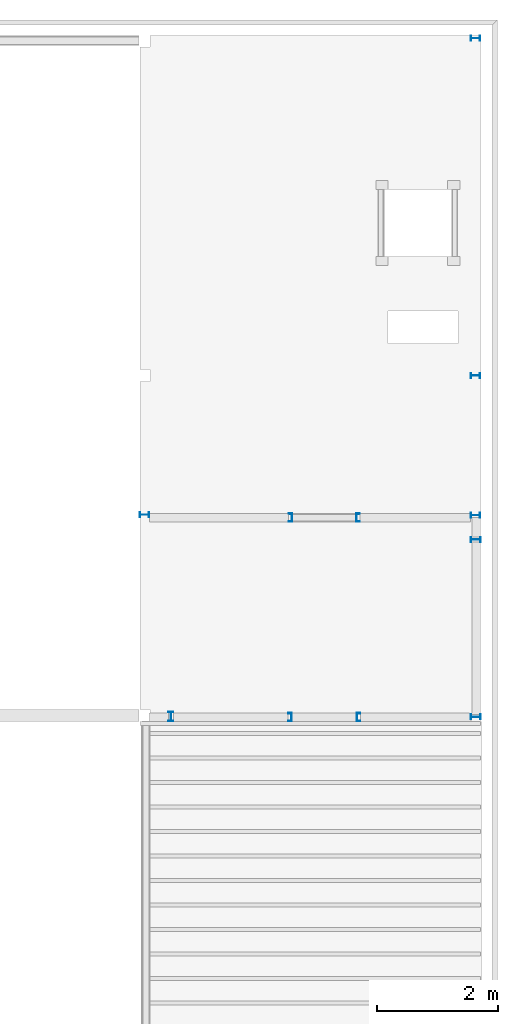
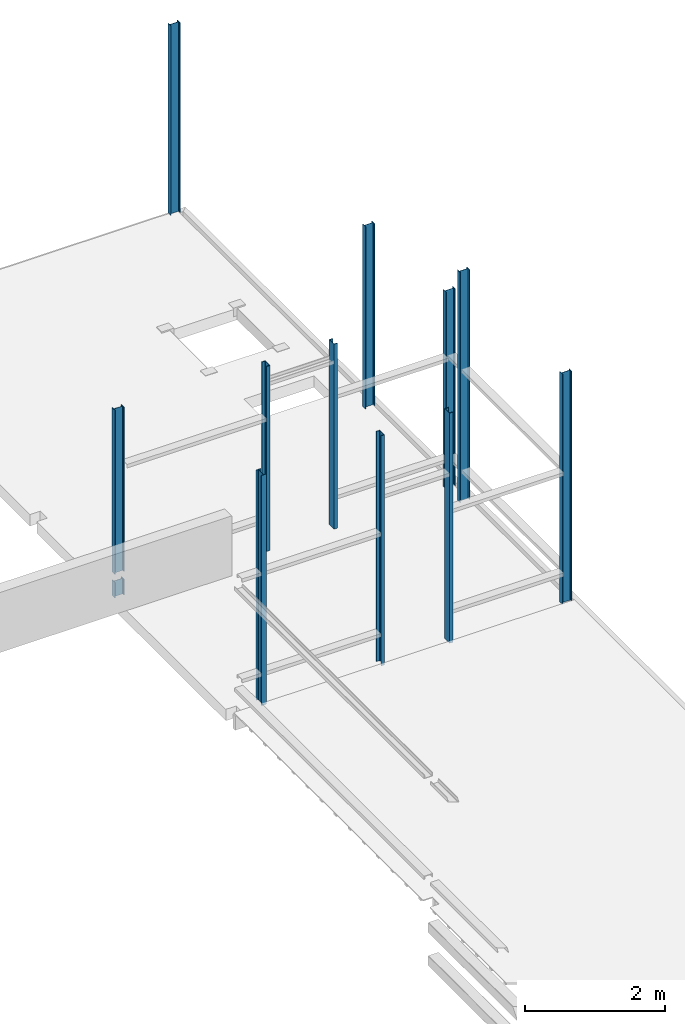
# One storey, part 1 of 8: 12 columns.
"""IFC2X3 building model written with IfcOpenShell, lengths in millimetres."""

from ifc_helpers import new_model, entity, si_unit, converted_unit, derived_unit, direction, frame, frame_2d, origin, place, context, subcontext, project, spatial, polyline, circle_curve, parameter, trimmed, segment, composite_curve, i_section, outline, extrude, source, transform, mapped, material, type_object, type_shapes, element, save


model = new_model("IFC2X3")

# Units and contexts
model_context = context("Model", 3, precision=0.01, world=origin(), true_north=direction((6.123031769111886e-17, 1.0)))
plan_context = context("Plan", 3, precision=0.01, world=origin(), true_north=direction((6.123031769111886e-17, 1.0)))
body_context = subcontext(model_context, "Body", "Model", "MODEL_VIEW")
ifc_project = project(units=[si_unit("LENGTHUNIT", "METRE", prefix="MILLI"), si_unit("AREAUNIT", "SQUARE_METRE"), si_unit("VOLUMEUNIT", "CUBIC_METRE"), converted_unit("PLANEANGLEUNIT", "DEGREE", entity("IfcPlaneAngleMeasure", 0.017453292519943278), si_unit("PLANEANGLEUNIT", "RADIAN"), dimensions=[0, 0, 0, 0, 0, 0, 0]), si_unit("MASSUNIT", "GRAM", prefix="KILO"), derived_unit("MASSDENSITYUNIT", [(si_unit("MASSUNIT", "GRAM", prefix="KILO"), 1), (si_unit("LENGTHUNIT", "METRE"), -3)]), derived_unit("IONCONCENTRATIONUNIT", [(si_unit("MASSUNIT", "GRAM", prefix="KILO"), 1), (si_unit("LENGTHUNIT", "METRE"), -3)]), derived_unit("MOMENTOFINERTIAUNIT", [(si_unit("LENGTHUNIT", "METRE"), 4)]), si_unit("TIMEUNIT", "SECOND"), si_unit("FREQUENCYUNIT", "HERTZ"), si_unit("THERMODYNAMICTEMPERATUREUNIT", "DEGREE_CELSIUS"), derived_unit("THERMALTRANSMITTANCEUNIT", [(si_unit("MASSUNIT", "GRAM", prefix="KILO"), 1), (si_unit("THERMODYNAMICTEMPERATUREUNIT", "KELVIN"), -1), (si_unit("TIMEUNIT", "SECOND"), -3)]), derived_unit("THERMALCONDUCTANCEUNIT", [(si_unit("MASSUNIT", "GRAM", prefix="KILO"), 1), (si_unit("THERMODYNAMICTEMPERATUREUNIT", "KELVIN"), -1), (si_unit("TIMEUNIT", "SECOND"), -3), (si_unit("LENGTHUNIT", "METRE"), 1)]), derived_unit("VOLUMETRICFLOWRATEUNIT", [(si_unit("LENGTHUNIT", "METRE", prefix="DECI"), 3), (si_unit("TIMEUNIT", "SECOND"), -1)]), derived_unit("MASSFLOWRATEUNIT", [(si_unit("MASSUNIT", "GRAM", prefix="KILO"), 1), (si_unit("TIMEUNIT", "SECOND"), -1)]), derived_unit("ROTATIONALFREQUENCYUNIT", [(si_unit("TIMEUNIT", "SECOND"), -1)]), si_unit("ELECTRICCURRENTUNIT", "AMPERE"), si_unit("ELECTRICVOLTAGEUNIT", "VOLT"), si_unit("POWERUNIT", "WATT"), si_unit("FORCEUNIT", "NEWTON", prefix="KILO"), si_unit("ILLUMINANCEUNIT", "LUX"), si_unit("LUMINOUSFLUXUNIT", "LUMEN"), si_unit("LUMINOUSINTENSITYUNIT", "CANDELA"), si_unit("ENERGYUNIT", "JOULE"), derived_unit("USERDEFINED", [(si_unit("MASSUNIT", "GRAM", prefix="KILO"), -1), (si_unit("LENGTHUNIT", "METRE"), -2), (si_unit("TIMEUNIT", "SECOND"), 3), (si_unit("LUMINOUSFLUXUNIT", "LUMEN"), 1)]), derived_unit("USERDEFINED", [(si_unit("MASSUNIT", "GRAM", prefix="KILO"), 1), (si_unit("TIMEUNIT", "SECOND"), -3), (si_unit("LENGTHUNIT", "METRE"), 3), (si_unit("ELECTRICCURRENTUNIT", "AMPERE"), -2)]), derived_unit("SOUNDPOWERUNIT", [(si_unit("MASSUNIT", "GRAM", prefix="KILO"), 1), (si_unit("TIMEUNIT", "SECOND"), -3), (si_unit("LENGTHUNIT", "METRE"), 2)]), derived_unit("SOUNDPRESSUREUNIT", [(si_unit("MASSUNIT", "GRAM", prefix="KILO"), 1), (si_unit("LENGTHUNIT", "METRE"), -1), (si_unit("TIMEUNIT", "SECOND"), -2)]), derived_unit("LINEARVELOCITYUNIT", [(si_unit("LENGTHUNIT", "METRE"), 1), (si_unit("TIMEUNIT", "SECOND"), -1)]), si_unit("PRESSUREUNIT", "PASCAL"), derived_unit("USERDEFINED", [(si_unit("MASSUNIT", "GRAM", prefix="KILO"), 1), (si_unit("LENGTHUNIT", "METRE"), -2), (si_unit("TIMEUNIT", "SECOND"), -2)]), derived_unit("LINEARFORCEUNIT", [(si_unit("MASSUNIT", "GRAM", prefix="KILO"), 1), (si_unit("TIMEUNIT", "SECOND"), -2)]), derived_unit("PLANARFORCEUNIT", [(si_unit("MASSUNIT", "GRAM", prefix="KILO"), 1), (si_unit("LENGTHUNIT", "METRE"), -1), (si_unit("TIMEUNIT", "SECOND"), -2)]), derived_unit("SPECIFICHEATCAPACITYUNIT", [(si_unit("THERMODYNAMICTEMPERATUREUNIT", "KELVIN"), -1), (si_unit("LENGTHUNIT", "METRE"), 2), (si_unit("TIMEUNIT", "SECOND"), -2)]), derived_unit("HEATFLUXDENSITYUNIT", [(si_unit("MASSUNIT", "GRAM", prefix="KILO"), 1), (si_unit("TIMEUNIT", "SECOND"), -3)]), derived_unit("HEATINGVALUEUNIT", [(si_unit("LENGTHUNIT", "METRE"), 2), (si_unit("TIMEUNIT", "SECOND"), -2)]), derived_unit("VAPORPERMEABILITYUNIT", [(si_unit("LENGTHUNIT", "METRE"), -1), (si_unit("TIMEUNIT", "SECOND"), 1)]), derived_unit("DYNAMICVISCOSITYUNIT", [(si_unit("MASSUNIT", "GRAM", prefix="KILO"), 1), (si_unit("TIMEUNIT", "SECOND"), -1), (si_unit("LENGTHUNIT", "METRE"), -1)]), derived_unit("THERMALEXPANSIONCOEFFICIENTUNIT", [(si_unit("THERMODYNAMICTEMPERATUREUNIT", "KELVIN"), -1)]), derived_unit("MODULUSOFELASTICITYUNIT", [(si_unit("MASSUNIT", "GRAM", prefix="KILO"), 1), (si_unit("LENGTHUNIT", "METRE"), -1), (si_unit("TIMEUNIT", "SECOND"), -2)]), derived_unit("ISOTHERMALMOISTURECAPACITYUNIT", [(si_unit("MASSUNIT", "GRAM", prefix="KILO"), -1), (si_unit("LENGTHUNIT", "METRE"), 3)]), derived_unit("MOISTUREDIFFUSIVITYUNIT", [(si_unit("TIMEUNIT", "SECOND"), -1), (si_unit("LENGTHUNIT", "METRE"), 2)]), derived_unit("MASSPERLENGTHUNIT", [(si_unit("MASSUNIT", "GRAM", prefix="KILO"), 1), (si_unit("LENGTHUNIT", "METRE"), -1)]), derived_unit("THERMALRESISTANCEUNIT", [(si_unit("MASSUNIT", "GRAM", prefix="KILO"), -1), (si_unit("TIMEUNIT", "SECOND"), 3), (si_unit("THERMODYNAMICTEMPERATUREUNIT", "KELVIN"), 1)]), derived_unit("ACCELERATIONUNIT", [(si_unit("LENGTHUNIT", "METRE"), 1), (si_unit("TIMEUNIT", "SECOND"), -2)]), derived_unit("ANGULARVELOCITYUNIT", [(si_unit("TIMEUNIT", "SECOND"), -1), (si_unit("PLANEANGLEUNIT", "RADIAN"), 1)]), derived_unit("LINEARSTIFFNESSUNIT", [(si_unit("MASSUNIT", "GRAM", prefix="KILO"), 1), (si_unit("TIMEUNIT", "SECOND"), -2)]), derived_unit("WARPINGCONSTANTUNIT", [(si_unit("LENGTHUNIT", "METRE"), 6)]), derived_unit("LINEARMOMENTUNIT", [(si_unit("MASSUNIT", "GRAM", prefix="KILO"), 1), (si_unit("LENGTHUNIT", "METRE"), 1), (si_unit("TIMEUNIT", "SECOND"), -2)]), derived_unit("TORQUEUNIT", [(si_unit("MASSUNIT", "GRAM", prefix="KILO"), 1), (si_unit("LENGTHUNIT", "METRE"), 2), (si_unit("TIMEUNIT", "SECOND"), -2)])], contexts=[model_context, plan_context])

# Site, building, storey
site_placement = place(None, origin())
site = spatial("IfcSite", under=ifc_project, at=site_placement, Name="Default", CompositionType="ELEMENT")
building_placement = place(site_placement, origin())
building = spatial("IfcBuilding", under=site, at=building_placement, CompositionType="ELEMENT")
storey_placement = place(building_placement, frame((0.0, 0.0, 3410.0)))
storey = spatial("IfcBuildingStorey", under=building, at=storey_placement, Name="01 eerste verdieping", CompositionType="ELEMENT", Elevation=3410.0000000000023)

# Columns
ifc_material = material(Name="constructiestaal S235")
column_type_1 = type_object("IfcColumnType", Name="28_SCO_TLB_IPE kolom_dw:IPE160 (S235)", PredefinedType="COLUMN", material=ifc_material)
shared_shape_1 = source(origin(), body_context, "Body", "SweptSolid", [
    extrude(i_section(OverallWidth=81.99999999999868, OverallDepth=159.9999999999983, WebThickness=4.999999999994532, FlangeThickness=7.399999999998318, FilletRadius=9.0, at=frame_2d((2.1671553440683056e-12, 8.661515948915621e-12), x_axis=(1.0, 0.0))), frame((55966.192937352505, 38691.67034020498, 3380.0), z_axis=(0.0, 0.0, 1.0), x_axis=(0.0, 1.0, 0.0)), (0.0, 0.0, 1.0), 3316.999999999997),
])
type_shapes(column_type_1, [shared_shape_1])
column_1_placement = place(storey_placement, frame((0.0, 0.0, -3410.0)))
element("IfcColumn", 1, at=column_1_placement, inside=storey, type_object=column_type_1, material=ifc_material, Name="28_SCO_TLB_IPE kolom_dw:IPE160 (S235)", ObjectType="28_SCO_TLB_IPE kolom_dw:IPE160 (S235)", context=body_context, shape_type="MappedRepresentation", body=[
    mapped(shared_shape_1, transform((0.0, 0.0, 0.0), scale=1.0)),
])
column_type_2 = type_object("IfcColumnType", Name="28_SCO_TLB_IPE kolom_dw:IPE160 (S235)", PredefinedType="COLUMN", material=ifc_material)
shared_shape_2 = source(origin(), body_context, "Body", "SweptSolid", [
    extrude(i_section(OverallWidth=81.99999999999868, OverallDepth=159.9999999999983, WebThickness=4.999999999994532, FlangeThickness=7.399999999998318, FilletRadius=9.0, at=frame_2d((-2.1671553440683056e-12, -8.661515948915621e-12), x_axis=(1.0, 0.0))), frame((55969.69293735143, 27467.320485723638, 3380.0), z_axis=(0.0, 0.0, 1.0), x_axis=(0.0, 1.0, 0.0)), (0.0, 0.0, 1.0), 4026.999999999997),
])
type_shapes(column_type_2, [shared_shape_2])
column_2_placement = place(storey_placement, frame((0.0, 0.0, -3410.0)))
element("IfcColumn", 2, at=column_2_placement, inside=storey, type_object=column_type_2, material=ifc_material, Name="28_SCO_TLB_IPE kolom_dw:IPE160 (S235)", ObjectType="28_SCO_TLB_IPE kolom_dw:IPE160 (S235)", context=body_context, shape_type="MappedRepresentation", body=[
    mapped(shared_shape_2, transform((0.0, 0.0, 0.0), scale=1.0)),
])
column_type_3 = type_object("IfcColumnType", Name="28_SCO_TLB_IPE kolom_dw:IPE160 (S235)", PredefinedType="COLUMN", material=ifc_material)
shared_shape_3 = source(origin(), body_context, "Body", "SweptSolid", [
    extrude(i_section(OverallWidth=81.99999999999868, OverallDepth=159.9999999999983, WebThickness=4.999999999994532, FlangeThickness=7.399999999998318, FilletRadius=9.0, at=frame_2d((-2.1671553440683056e-12, 8.661515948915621e-12), x_axis=(1.0, 0.0))), frame((55966.192937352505, 30802.670340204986, 3380.0), z_axis=(0.0, 0.0, 1.0), x_axis=(0.0, 1.0, 0.0)), (0.0, 0.0, 1.0), 3441.9999999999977),
])
type_shapes(column_type_3, [shared_shape_3])
column_3_placement = place(storey_placement, frame((0.0, 0.0, -3410.0)))
element("IfcColumn", 3, at=column_3_placement, inside=storey, type_object=column_type_3, material=ifc_material, Name="28_SCO_TLB_IPE kolom_dw:IPE160 (S235)", ObjectType="28_SCO_TLB_IPE kolom_dw:IPE160 (S235)", context=body_context, shape_type="MappedRepresentation", body=[
    mapped(shared_shape_3, transform((0.0, 0.0, 0.0), scale=1.0)),
])
column_type_4 = type_object("IfcColumnType", Name="28_SCO_TLB_IPE kolom_dw:IPE160 (S235)", PredefinedType="COLUMN", material=ifc_material)
shared_shape_4 = source(origin(), body_context, "Body", "SweptSolid", [
    extrude(i_section(OverallWidth=81.99999999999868, OverallDepth=159.99999999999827, WebThickness=4.999999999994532, FlangeThickness=7.399999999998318, FilletRadius=9.0, at=frame_2d((2.1671553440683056e-12, 0.0), x_axis=(1.0, 0.0))), frame((50491.19293735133, 30810.570340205, 3380.0), z_axis=(0.0, 0.0, 1.0), x_axis=(0.0, 1.0, 0.0)), (0.0, 0.0, 1.0), 275.0000000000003),
])
type_shapes(column_type_4, [shared_shape_4])
column_4_placement = place(storey_placement, frame((0.0, 0.0, -3410.0)))
element("IfcColumn", 4, at=column_4_placement, inside=storey, type_object=column_type_4, material=ifc_material, Name="28_SCO_TLB_IPE kolom_dw:IPE160 (S235)", ObjectType="28_SCO_TLB_IPE kolom_dw:IPE160 (S235)", context=body_context, shape_type="MappedRepresentation", body=[
    mapped(shared_shape_4, transform((0.0, 0.0, 0.0), scale=1.0)),
])
column_type_5 = type_object("IfcColumnType", Name="28_SCO_TLB_IPE kolom_dw:IPE160 (S235)", PredefinedType="COLUMN", material=ifc_material)
shared_shape_5 = source(origin(), body_context, "Body", "SweptSolid", [
    extrude(i_section(OverallWidth=81.99999999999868, OverallDepth=159.9999999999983, WebThickness=4.999999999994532, FlangeThickness=7.399999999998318, FilletRadius=9.0, at=frame_2d((2.1671553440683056e-12, 8.661515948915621e-12), x_axis=(1.0, 0.0))), frame((55966.192937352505, 33112.67034020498, 3380.0), z_axis=(0.0, 0.0, 1.0), x_axis=(0.0, 1.0, 0.0)), (0.0, 0.0, 1.0), 3186.9999999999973),
])
type_shapes(column_type_5, [shared_shape_5])
column_5_placement = place(storey_placement, frame((0.0, 0.0, -3410.0)))
element("IfcColumn", 5, at=column_5_placement, inside=storey, type_object=column_type_5, material=ifc_material, Name="28_SCO_TLB_IPE kolom_dw:IPE160 (S235)", ObjectType="28_SCO_TLB_IPE kolom_dw:IPE160 (S235)", context=body_context, shape_type="MappedRepresentation", body=[
    mapped(shared_shape_5, transform((0.0, 0.0, 0.0), scale=1.0)),
])
column_type_6 = type_object("IfcColumnType", Name="28_SCO_TLB_IPE kolom_dw:IPE160 (S235)", PredefinedType="COLUMN", material=ifc_material)
shared_shape_6 = source(origin(), body_context, "Body", "SweptSolid", [
    extrude(i_section(OverallWidth=81.99999999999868, OverallDepth=159.99999999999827, WebThickness=4.999999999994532, FlangeThickness=7.399999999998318, FilletRadius=9.0, at=frame_2d((2.1671553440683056e-12, 0.0), x_axis=(1.0, 0.0))), frame((50491.19293735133, 30810.570340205, 3790.0), z_axis=(0.0, 0.0, 1.0), x_axis=(0.0, 1.0, 0.0)), (0.0, 0.0, 1.0), 2876.999999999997),
])
type_shapes(column_type_6, [shared_shape_6])
column_6_placement = place(storey_placement, frame((0.0, 0.0, -3410.0)))
element("IfcColumn", 6, at=column_6_placement, inside=storey, type_object=column_type_6, material=ifc_material, Name="28_SCO_TLB_IPE kolom_dw:IPE160 (S235)", ObjectType="28_SCO_TLB_IPE kolom_dw:IPE160 (S235)", context=body_context, shape_type="MappedRepresentation", body=[
    mapped(shared_shape_6, transform((0.0, 0.0, 0.0), scale=1.0)),
])
column_type_7 = type_object("IfcColumnType", Name="28_SCO_TLB_UNP kolom_dw:UNP140 (S235)", PredefinedType="COLUMN", material=ifc_material)
shared_shape_7 = source(origin(), body_context, "Body", "SweptSolid", [
    extrude(outline(composite_curve([segment(polyline([(-33.16666666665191, -69.93760274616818), (26.833333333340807, -69.9376027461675)]), True, "CONTINUOUS"), segment(polyline([(26.833333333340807, -69.9376027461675), (26.833333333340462, -65.16520177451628)]), True, "CONTINUOUS"), segment(trimmed(circle_curve(frame_2d((21.833333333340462, -65.165201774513), x_axis=(1.0, 0.0)), 5.0), [parameter(0.0)], [parameter(90.00000000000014)], True, "PARAMETER"), True, "CONTINUOUS"), segment(polyline([(21.833333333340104, -60.165201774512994), (-16.166666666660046, -58.14041273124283)]), True, "CONTINUOUS"), segment(trimmed(circle_curve(frame_2d((-16.166666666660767, -48.140412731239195), x_axis=(1.0, 0.0)), 10.0), [parameter(180.0)], [parameter(269.99999999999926)], True, "PARAMETER"), False, "CONTINUOUS"), segment(polyline([(-26.16666666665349, -48.14041273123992), (-26.166666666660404, 47.625860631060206)]), True, "CONTINUOUS"), segment(trimmed(circle_curve(frame_2d((-16.16666666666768, 47.62586063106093), x_axis=(1.0, 0.0)), 10.0), [parameter(90.00000000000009)], [parameter(180.0)], True, "PARAMETER"), False, "CONTINUOUS"), segment(polyline([(-16.16666666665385, 57.62586063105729), (21.83333333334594, 60.5549593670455)]), True, "CONTINUOUS"), segment(trimmed(circle_curve(frame_2d((21.833333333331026, 65.55495936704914), x_axis=(1.0, 0.0)), 5.0), [parameter(269.9999999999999)], [parameter(0.0)], True, "PARAMETER"), True, "CONTINUOUS"), segment(polyline([(26.83333333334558, 65.55495936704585), (26.83333333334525, 70.06239725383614)]), True, "CONTINUOUS"), segment(polyline([(26.83333333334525, 70.06239725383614), (-33.166666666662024, 70.06239725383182)]), True, "CONTINUOUS"), segment(polyline([(-33.166666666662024, 70.06239725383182), (-33.16666666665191, -69.93760274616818)]), True, "CONTINUOUS")], self_intersect=False)), frame((54035.359604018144, 27462.608088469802, 3380.0)), (0.0, 0.0, 1.0), 4026.999999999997),
])
type_shapes(column_type_7, [shared_shape_7])
column_7_placement = place(storey_placement, frame((0.0, 0.0, -3410.0)))
element("IfcColumn", 7, at=column_7_placement, inside=storey, type_object=column_type_7, material=ifc_material, Name="28_SCO_TLB_UNP kolom_dw:UNP140 (S235)", ObjectType="28_SCO_TLB_UNP kolom_dw:UNP140 (S235)", context=body_context, shape_type="MappedRepresentation", body=[
    mapped(shared_shape_7, transform((0.0, 0.0, 0.0), scale=1.0)),
])
column_type_8 = type_object("IfcColumnType", Name="28_SCO_TLB_UNP kolom_dw:UNP140 (S235)", PredefinedType="COLUMN", material=ifc_material)
shared_shape_8 = source(origin(), body_context, "Body", "SweptSolid", [
    extrude(outline(composite_curve([segment(polyline([(-69.9376027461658, -33.16666666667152), (70.0623972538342, -33.16666666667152)]), True, "CONTINUOUS"), segment(polyline([(70.0623972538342, -33.16666666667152), (70.0623972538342, 26.83333333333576)]), True, "CONTINUOUS"), segment(polyline([(70.0623972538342, 26.83333333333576), (65.55495936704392, 26.83333333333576)]), True, "CONTINUOUS"), segment(trimmed(circle_curve(frame_2d((65.55495936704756, 21.833333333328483), x_axis=(0.0, 1.0)), 5.0), [parameter(0.0)], [parameter(90.00000000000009)], True, "PARAMETER"), True, "CONTINUOUS"), segment(polyline([(60.55495936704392, 21.83333333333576), (57.62586063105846, -16.16666666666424)]), True, "CONTINUOUS"), segment(trimmed(circle_curve(frame_2d((47.625860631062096, -16.166666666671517), x_axis=(0.0, 1.0)), 10.0), [parameter(180.0)], [parameter(269.9999999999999)], True, "PARAMETER"), False, "CONTINUOUS"), segment(polyline([(47.625860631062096, -26.166666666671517), (-48.14041273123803, -26.166666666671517)]), True, "CONTINUOUS"), segment(trimmed(circle_curve(frame_2d((-48.14041273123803, -16.166666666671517), x_axis=(0.0, 1.0)), 10.0), [parameter(90.00000000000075)], [parameter(180.0)], True, "PARAMETER"), False, "CONTINUOUS"), segment(polyline([(-58.14041273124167, -16.166666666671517), (-60.16520177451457, 21.833333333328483)]), True, "CONTINUOUS"), segment(trimmed(circle_curve(frame_2d((-65.16520177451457, 21.833333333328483), x_axis=(0.0, 1.0)), 5.0), [parameter(269.9999999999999)], [parameter(0.0)], True, "PARAMETER"), True, "CONTINUOUS"), segment(polyline([(-65.16520177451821, 26.833333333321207), (-69.93760274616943, 26.833333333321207)]), True, "CONTINUOUS"), segment(polyline([(-69.93760274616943, 26.833333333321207), (-69.9376027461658, -33.16666666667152)]), True, "CONTINUOUS")], self_intersect=False)), frame((52893.0262706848, 27462.608088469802, 3380.0), z_axis=(0.0, 0.0, 1.0), x_axis=(0.0, 1.0, 0.0)), (0.0, 0.0, 1.0), 4026.999999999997),
])
type_shapes(column_type_8, [shared_shape_8])
column_8_placement = place(storey_placement, frame((0.0, 0.0, -3410.0)))
element("IfcColumn", 8, at=column_8_placement, inside=storey, type_object=column_type_8, material=ifc_material, Name="28_SCO_TLB_UNP kolom_dw:UNP140 (S235)", ObjectType="28_SCO_TLB_UNP kolom_dw:UNP140 (S235)", context=body_context, shape_type="MappedRepresentation", body=[
    mapped(shared_shape_8, transform((0.0, 0.0, 0.0), scale=1.0)),
])
column_type_9 = type_object("IfcColumnType", Name="28_SCO_TLB_IPE kolom_dw:IPE160 (S235)", PredefinedType="COLUMN", material=ifc_material)
shared_shape_9 = source(origin(), body_context, "Body", "SweptSolid", [
    extrude(i_section(OverallWidth=81.99999999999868, OverallDepth=159.99999999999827, WebThickness=4.999999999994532, FlangeThickness=7.399999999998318, FilletRadius=9.0, at=frame_2d((2.1671553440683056e-12, 0.0), x_axis=(1.0, 0.0))), frame((55969.69293735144, 30399.670485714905, 3380.0), z_axis=(0.0, 0.0, 1.0), x_axis=(0.0, 1.0, 0.0)), (0.0, 0.0, 1.0), 4026.999999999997),
])
type_shapes(column_type_9, [shared_shape_9])
column_9_placement = place(storey_placement, frame((0.0, 0.0, -3410.0)))
element("IfcColumn", 9, at=column_9_placement, inside=storey, type_object=column_type_9, material=ifc_material, Name="28_SCO_TLB_IPE kolom_dw:IPE160 (S235)", ObjectType="28_SCO_TLB_IPE kolom_dw:IPE160 (S235)", context=body_context, shape_type="MappedRepresentation", body=[
    mapped(shared_shape_9, transform((0.0, 0.0, 0.0), scale=1.0)),
])
column_type_10 = type_object("IfcColumnType", Name="28_SCO_TLB_IPE kolom_dw:IPE160 (S235)", PredefinedType="COLUMN", material=ifc_material)
shared_shape_10 = source(origin(), body_context, "Body", "SweptSolid", [
    extrude(i_section(OverallWidth=81.99999999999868, OverallDepth=159.9999999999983, WebThickness=4.999999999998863, FlangeThickness=7.400000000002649, FilletRadius=9.0, at=frame_2d((8.665068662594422e-12, 4.32720526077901e-12), x_axis=(1.0, 0.0))), frame((50927.19293735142, 27472.670485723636, 3380.0)), (0.0, 0.0, 1.0), 4026.999999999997),
])
type_shapes(column_type_10, [shared_shape_10])
column_10_placement = place(storey_placement, frame((0.0, 0.0, -3410.0)))
element("IfcColumn", 10, at=column_10_placement, inside=storey, type_object=column_type_10, material=ifc_material, Name="28_SCO_TLB_IPE kolom_dw:IPE160 (S235)", ObjectType="28_SCO_TLB_IPE kolom_dw:IPE160 (S235)", context=body_context, shape_type="MappedRepresentation", body=[
    mapped(shared_shape_10, transform((0.0, 0.0, 0.0), scale=1.0)),
])
column_type_11 = type_object("IfcColumnType", Name="28_SCO_TLB_UNP kolom_dw:UNP140 (S235)", PredefinedType="COLUMN", material=ifc_material)
shared_shape_11 = source(origin(), body_context, "Body", "SweptSolid", [
    extrude(outline(composite_curve([segment(polyline([(-33.166666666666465, -69.93760274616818), (26.833333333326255, -69.93760274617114)]), True, "CONTINUOUS"), segment(polyline([(26.833333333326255, -69.93760274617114), (26.83333333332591, -65.16520177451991)]), True, "CONTINUOUS"), segment(trimmed(circle_curve(frame_2d((21.833333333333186, -65.165201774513), x_axis=(1.0, 0.0)), 5.0), [parameter(0.0)], [parameter(90.00000000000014)], True, "PARAMETER"), True, "CONTINUOUS"), segment(polyline([(21.833333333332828, -60.16520177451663), (-16.16666666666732, -58.14041273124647)]), True, "CONTINUOUS"), segment(trimmed(circle_curve(frame_2d((-16.166666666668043, -48.14041273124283), x_axis=(1.0, 0.0)), 10.0), [parameter(180.0)], [parameter(269.99999999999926)], True, "PARAMETER"), False, "CONTINUOUS"), segment(polyline([(-26.166666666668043, -48.14041273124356), (-26.166666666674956, 47.62586063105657)]), True, "CONTINUOUS"), segment(trimmed(circle_curve(frame_2d((-16.166666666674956, 47.62586063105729), x_axis=(1.0, 0.0)), 10.0), [parameter(90.00000000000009)], [parameter(180.0)], True, "PARAMETER"), False, "CONTINUOUS"), segment(polyline([(-16.1666666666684, 57.625860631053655), (21.83333333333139, 60.55495936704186)]), True, "CONTINUOUS"), segment(trimmed(circle_curve(frame_2d((21.83333333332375, 65.5549593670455), x_axis=(1.0, 0.0)), 5.0), [parameter(269.9999999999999)], [parameter(0.0)], True, "PARAMETER"), True, "CONTINUOUS"), segment(polyline([(26.833333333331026, 65.55495936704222), (26.8333333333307, 70.0623972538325)]), True, "CONTINUOUS"), segment(polyline([(26.8333333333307, 70.0623972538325), (-33.166666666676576, 70.06239725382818)]), True, "CONTINUOUS"), segment(polyline([(-33.166666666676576, 70.06239725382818), (-33.166666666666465, -69.93760274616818)]), True, "CONTINUOUS")], self_intersect=False)), frame((54025.35960401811, 30762.608088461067, 3380.0)), (0.0, 0.0, 1.0), 3236.999999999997),
])
type_shapes(column_type_11, [shared_shape_11])
column_11_placement = place(storey_placement, frame((0.0, 0.0, -3410.0)))
element("IfcColumn", 11, at=column_11_placement, inside=storey, type_object=column_type_11, material=ifc_material, Name="28_SCO_TLB_UNP kolom_dw:UNP140 (S235)", ObjectType="28_SCO_TLB_UNP kolom_dw:UNP140 (S235)", context=body_context, shape_type="MappedRepresentation", body=[
    mapped(shared_shape_11, transform((0.0, 0.0, 0.0), scale=1.0)),
])
column_type_12 = type_object("IfcColumnType", Name="28_SCO_TLB_UNP kolom_dw:UNP140 (S235)", PredefinedType="COLUMN", material=ifc_material)
shared_shape_12 = source(origin(), body_context, "Body", "SweptSolid", [
    extrude(outline(composite_curve([segment(polyline([(-69.9376027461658, -33.166666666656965), (70.06239725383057, -33.166666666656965)]), True, "CONTINUOUS"), segment(polyline([(70.06239725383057, -33.166666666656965), (70.06239725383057, 26.833333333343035)]), True, "CONTINUOUS"), segment(polyline([(70.06239725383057, 26.833333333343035), (65.55495936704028, 26.833333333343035)]), True, "CONTINUOUS"), segment(trimmed(circle_curve(frame_2d((65.55495936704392, 21.83333333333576), x_axis=(0.0, 1.0)), 5.0), [parameter(0.0)], [parameter(90.00000000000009)], True, "PARAMETER"), True, "CONTINUOUS"), segment(polyline([(60.55495936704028, 21.833333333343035), (57.62586063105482, -16.166666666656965)]), True, "CONTINUOUS"), segment(trimmed(circle_curve(frame_2d((47.62586063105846, -16.16666666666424), x_axis=(0.0, 1.0)), 10.0), [parameter(180.0)], [parameter(269.9999999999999)], True, "PARAMETER"), False, "CONTINUOUS"), segment(polyline([(47.62586063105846, -26.166666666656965), (-48.14041273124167, -26.166666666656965)]), True, "CONTINUOUS"), segment(trimmed(circle_curve(frame_2d((-48.14041273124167, -16.16666666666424), x_axis=(0.0, 1.0)), 10.0), [parameter(90.00000000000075)], [parameter(180.0)], True, "PARAMETER"), False, "CONTINUOUS"), segment(polyline([(-58.140412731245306, -16.16666666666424), (-60.16520177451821, 21.83333333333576)]), True, "CONTINUOUS"), segment(trimmed(circle_curve(frame_2d((-65.16520177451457, 21.83333333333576), x_axis=(0.0, 1.0)), 5.0), [parameter(269.9999999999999)], [parameter(0.0)], True, "PARAMETER"), True, "CONTINUOUS"), segment(polyline([(-65.16520177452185, 26.83333333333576), (-69.93760274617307, 26.83333333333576)]), True, "CONTINUOUS"), segment(polyline([(-69.93760274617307, 26.83333333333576), (-69.9376027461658, -33.166666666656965)]), True, "CONTINUOUS")], self_intersect=False)), frame((52903.02627068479, 30762.608088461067, 3380.0), z_axis=(0.0, 0.0, 1.0), x_axis=(0.0, 1.0, 0.0)), (0.0, 0.0, 1.0), 3236.999999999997),
])
type_shapes(column_type_12, [shared_shape_12])
column_12_placement = place(storey_placement, frame((0.0, 0.0, -3410.0)))
element("IfcColumn", 12, at=column_12_placement, inside=storey, type_object=column_type_12, material=ifc_material, Name="28_SCO_TLB_UNP kolom_dw:UNP140 (S235)", ObjectType="28_SCO_TLB_UNP kolom_dw:UNP140 (S235)", context=body_context, shape_type="MappedRepresentation", body=[
    mapped(shared_shape_12, transform((0.0, 0.0, 0.0), scale=1.0)),
])

save(model, "model.ifc")
